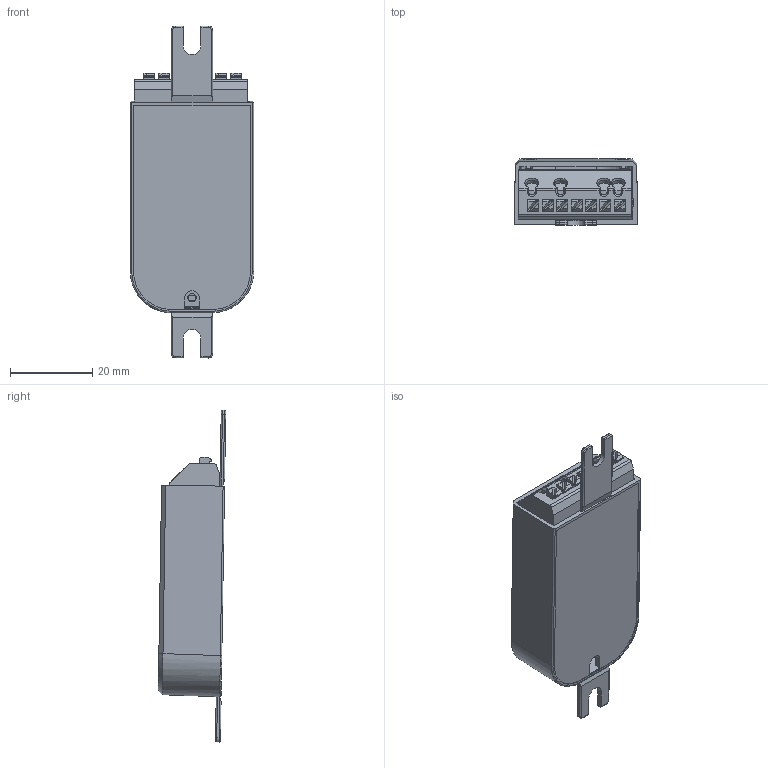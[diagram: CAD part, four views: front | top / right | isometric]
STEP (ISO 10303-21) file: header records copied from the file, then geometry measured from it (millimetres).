
FILE_DESCRIPTION((''),'2;1');
FILE_NAME('15012863','2018-11-07T11:16:07',('elon.guo'),(''),'CREO PARAMETRIC BY PTC INC, 2017380','CREO PARAMETRIC BY PTC INC, 2017380','');
FILE_SCHEMA(('AUTOMOTIVE_DESIGN { 1 0 10303 214 1 1 1 1 }'));
Length unit declared in the file: millimetre
Products named in the file (1): 15012863
Bounding box: 29.99 x 16.4 x 80.69 mm (x, y, z)
Volume: 10455.9 mm3; surface area: 13937.6 mm2
Topology: 1 solids, 4 shells, 428 faces, 1184 edges, 777 vertices
Faces by surface type: plane 305, cylinder 94, cone 11, torus 10, bspline 6, extrusion 2
Entity records: 21317 total; most frequent: CARTESIAN_POINT 3334, ORIENTED_EDGE 2368, DIRECTION 2071, PRESENTATION_STYLE_ASSIGNMENT 1615, STYLED_ITEM 1187, CURVE_STYLE 1186, EDGE_CURVE 1184, VECTOR 895
